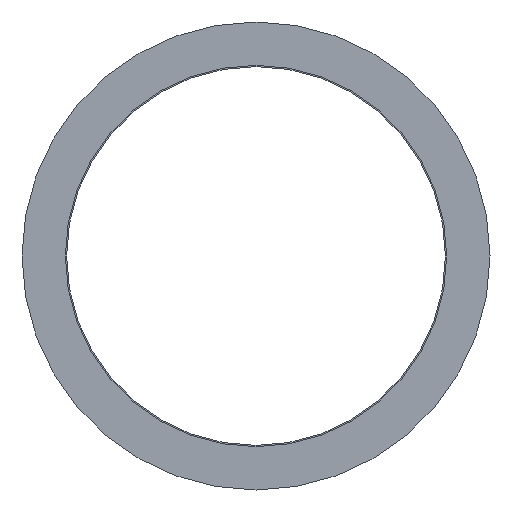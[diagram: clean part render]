
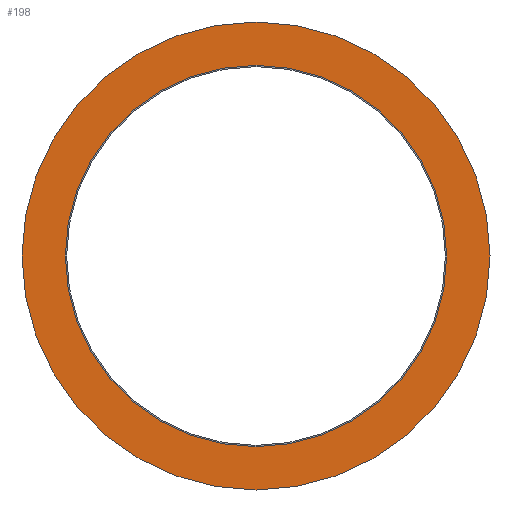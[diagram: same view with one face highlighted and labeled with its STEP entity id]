
A CAD part, left-side view. The second image highlights one B-rep face of the part: STEP entity #198.
In plain terms, the highlighted planar face has unit normal (-1, 0, 0).
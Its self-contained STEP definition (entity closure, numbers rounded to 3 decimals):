
#2 = EDGE_LOOP ( 'NONE', ( #89, #378 ) ) ;
#32 = DIRECTION ( 'NONE',  ( 1., 0., 0. ) ) ;
#39 = DIRECTION ( 'NONE',  ( 0., 0., -1. ) ) ;
#49 = DIRECTION ( 'NONE',  ( 0., 0., -1. ) ) ;
#51 = FACE_BOUND ( 'NONE', #2, .T. ) ;
#54 = AXIS2_PLACEMENT_3D ( 'NONE', #212, #355, #49 ) ;
#56 = CIRCLE ( 'NONE', #54, 8.555 ) ;
#62 = AXIS2_PLACEMENT_3D ( 'NONE', #120, #99, #303 ) ;
#66 = CIRCLE ( 'NONE', #103, 8.555 ) ;
#75 = VERTEX_POINT ( 'NONE', #164 ) ;
#89 = ORIENTED_EDGE ( 'NONE', *, *, #368, .T. ) ;
#90 = CARTESIAN_POINT ( 'NONE',  ( -3.771, 0., 0. ) ) ;
#95 = EDGE_CURVE ( 'NONE', #349, #154, #267, .T. ) ;
#99 = DIRECTION ( 'NONE',  ( -1., 0., 0. ) ) ;
#103 = AXIS2_PLACEMENT_3D ( 'NONE', #90, #337, #197 ) ;
#110 = CARTESIAN_POINT ( 'NONE',  ( -3.771, 0., 0. ) ) ;
#120 = CARTESIAN_POINT ( 'NONE',  ( -3.771, 0., 0. ) ) ;
#134 = CARTESIAN_POINT ( 'NONE',  ( -3.771, 0., 0. ) ) ;
#139 = CARTESIAN_POINT ( 'NONE',  ( -3.771, 0., -8.555 ) ) ;
#154 = VERTEX_POINT ( 'NONE', #227 ) ;
#156 = PLANE ( 'NONE',  #62 ) ;
#164 = CARTESIAN_POINT ( 'NONE',  ( -3.771, 0., 8.555 ) ) ;
#168 = CARTESIAN_POINT ( 'NONE',  ( -3.771, 0., 10.5 ) ) ;
#195 = AXIS2_PLACEMENT_3D ( 'NONE', #134, #32, #39 ) ;
#197 = DIRECTION ( 'NONE',  ( 0., 0., -1. ) ) ;
#198 = ADVANCED_FACE ( 'NONE', ( #51, #228 ), #156, .T. ) ;
#212 = CARTESIAN_POINT ( 'NONE',  ( -3.771, 0., 0. ) ) ;
#221 = ORIENTED_EDGE ( 'NONE', *, *, #298, .F. ) ;
#227 = CARTESIAN_POINT ( 'NONE',  ( -3.771, 0., -10.5 ) ) ;
#228 = FACE_OUTER_BOUND ( 'NONE', #367, .T. ) ;
#245 = CIRCLE ( 'NONE', #347, 10.5 ) ;
#267 = CIRCLE ( 'NONE', #195, 10.5 ) ;
#269 = DIRECTION ( 'NONE',  ( 0., 0., -1. ) ) ;
#276 = EDGE_CURVE ( 'NONE', #75, #321, #66, .T. ) ;
#298 = EDGE_CURVE ( 'NONE', #154, #349, #245, .T. ) ;
#301 = ORIENTED_EDGE ( 'NONE', *, *, #95, .F. ) ;
#303 = DIRECTION ( 'NONE',  ( 0., 0., 1. ) ) ;
#321 = VERTEX_POINT ( 'NONE', #139 ) ;
#337 = DIRECTION ( 'NONE',  ( 1., 0., 0. ) ) ;
#347 = AXIS2_PLACEMENT_3D ( 'NONE', #110, #401, #269 ) ;
#349 = VERTEX_POINT ( 'NONE', #168 ) ;
#355 = DIRECTION ( 'NONE',  ( 1., 0., 0. ) ) ;
#367 = EDGE_LOOP ( 'NONE', ( #221, #301 ) ) ;
#368 = EDGE_CURVE ( 'NONE', #321, #75, #56, .T. ) ;
#378 = ORIENTED_EDGE ( 'NONE', *, *, #276, .T. ) ;
#401 = DIRECTION ( 'NONE',  ( 1., 0., 0. ) ) ;
